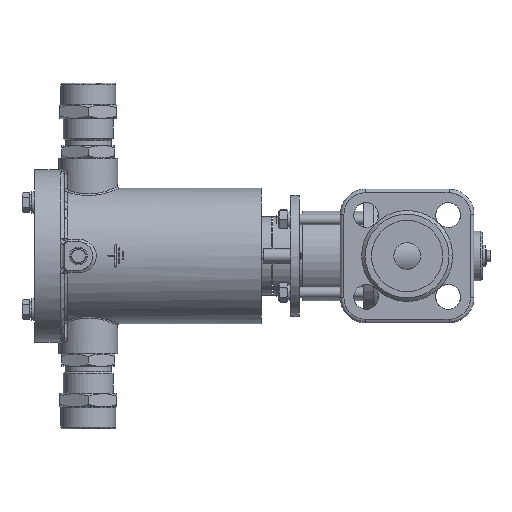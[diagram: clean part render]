
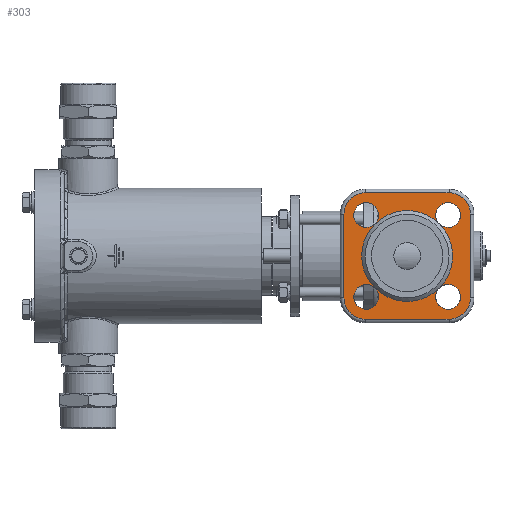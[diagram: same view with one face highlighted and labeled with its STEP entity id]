
A CAD part, left-side view. The second image highlights one B-rep face of the part: STEP entity #303.
In plain terms, the highlighted planar face has unit normal (-1, 0, 0).
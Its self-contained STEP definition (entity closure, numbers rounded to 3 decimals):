
#303=ADVANCED_FACE('',(#6825,#6827,#6829,#6831,#6833,#6835),#6837,.T.);
#6825=FACE_BOUND('',#6826,.T.);
#6826=EDGE_LOOP('',(#22186));
#6827=FACE_BOUND('',#6828,.T.);
#6828=EDGE_LOOP('',(#22187));
#6829=FACE_BOUND('',#6830,.T.);
#6830=EDGE_LOOP('',(#22188));
#6831=FACE_BOUND('',#6832,.T.);
#6832=EDGE_LOOP('',(#22189));
#6833=FACE_BOUND('',#6834,.T.);
#6834=EDGE_LOOP('',(#22190));
#6835=FACE_OUTER_BOUND('',#6836,.T.);
#6836=EDGE_LOOP('',(#22191,#22192,#22193,#22194,#22195,#22196,#22197,#22198));
#6837=PLANE('',#6838);
#6838=AXIS2_PLACEMENT_3D('',#6839,#6840,#6841);
#6839=CARTESIAN_POINT('',(-64.,0.,0.));
#6840=DIRECTION('',(-1.,-0.,-0.));
#6841=DIRECTION('',(0.,1.,0.));
#22186=ORIENTED_EDGE('',*,*,#35082,.T.);
#22187=ORIENTED_EDGE('',*,*,#35084,.T.);
#22188=ORIENTED_EDGE('',*,*,#35078,.T.);
#22189=ORIENTED_EDGE('',*,*,#35135,.T.);
#22190=ORIENTED_EDGE('',*,*,#35080,.T.);
#22191=ORIENTED_EDGE('',*,*,#35136,.T.);
#22192=ORIENTED_EDGE('',*,*,#35137,.T.);
#22193=ORIENTED_EDGE('',*,*,#35138,.T.);
#22194=ORIENTED_EDGE('',*,*,#35139,.T.);
#22195=ORIENTED_EDGE('',*,*,#35140,.T.);
#22196=ORIENTED_EDGE('',*,*,#35141,.T.);
#22197=ORIENTED_EDGE('',*,*,#35142,.T.);
#22198=ORIENTED_EDGE('',*,*,#35143,.T.);
#35078=EDGE_CURVE('',#40150,#40150,#40152,.F.);
#35080=EDGE_CURVE('',#40153,#40153,#40155,.F.);
#35082=EDGE_CURVE('',#40156,#40156,#40158,.F.);
#35084=EDGE_CURVE('',#40159,#40159,#40161,.F.);
#35135=EDGE_CURVE('',#40238,#40238,#40239,.T.);
#35136=EDGE_CURVE('',#40240,#40241,#40242,.T.);
#35137=EDGE_CURVE('',#40241,#40243,#40244,.T.);
#35138=EDGE_CURVE('',#40243,#40245,#40246,.T.);
#35139=EDGE_CURVE('',#40245,#40247,#40248,.T.);
#35140=EDGE_CURVE('',#40247,#40249,#40250,.T.);
#35141=EDGE_CURVE('',#40249,#40251,#40252,.T.);
#35142=EDGE_CURVE('',#40251,#40253,#40254,.T.);
#35143=EDGE_CURVE('',#40253,#40240,#40255,.T.);
#40150=VERTEX_POINT('',#52461);
#40152=CIRCLE('',#52465,7.);
#40153=VERTEX_POINT('',#52469);
#40155=CIRCLE('',#52473,7.);
#40156=VERTEX_POINT('',#52477);
#40158=CIRCLE('',#52481,7.);
#40159=VERTEX_POINT('',#52485);
#40161=CIRCLE('',#52489,7.);
#40238=VERTEX_POINT('',#52695);
#40239=CIRCLE('',#52696,25.5);
#40240=VERTEX_POINT('',#52700);
#40241=VERTEX_POINT('',#52701);
#40242=LINE('',#52702,#52703);
#40243=VERTEX_POINT('',#52705);
#40244=CIRCLE('',#52706,12.);
#40245=VERTEX_POINT('',#52710);
#40246=LINE('',#52711,#52712);
#40247=VERTEX_POINT('',#52714);
#40248=CIRCLE('',#52715,12.);
#40249=VERTEX_POINT('',#52719);
#40250=LINE('',#52720,#52721);
#40251=VERTEX_POINT('',#52723);
#40252=CIRCLE('',#52724,12.);
#40253=VERTEX_POINT('',#52728);
#40254=LINE('',#52729,#52730);
#40255=CIRCLE('',#52732,12.);
#52461=CARTESIAN_POINT('',(-64.,-22.981,-29.981));
#52465=AXIS2_PLACEMENT_3D('',#52466,#52467,#52468);
#52466=CARTESIAN_POINT('',(-64.,-22.981,-22.981));
#52467=DIRECTION('',(-1.,-0.,-0.));
#52468=DIRECTION('',(0.,0.,-1.));
#52469=CARTESIAN_POINT('',(-64.,-22.981,15.981));
#52473=AXIS2_PLACEMENT_3D('',#52474,#52475,#52476);
#52474=CARTESIAN_POINT('',(-64.,-22.981,22.981));
#52475=DIRECTION('',(-1.,-0.,-0.));
#52476=DIRECTION('',(0.,0.,-1.));
#52477=CARTESIAN_POINT('',(-64.,22.981,15.981));
#52481=AXIS2_PLACEMENT_3D('',#52482,#52483,#52484);
#52482=CARTESIAN_POINT('',(-64.,22.981,22.981));
#52483=DIRECTION('',(-1.,-0.,-0.));
#52484=DIRECTION('',(0.,0.,-1.));
#52485=CARTESIAN_POINT('',(-64.,22.981,-29.981));
#52489=AXIS2_PLACEMENT_3D('',#52490,#52491,#52492);
#52490=CARTESIAN_POINT('',(-64.,22.981,-22.981));
#52491=DIRECTION('',(-1.,-0.,-0.));
#52492=DIRECTION('',(0.,0.,-1.));
#52695=CARTESIAN_POINT('',(-64.,25.5,0.));
#52696=AXIS2_PLACEMENT_3D('',#52697,#52698,#52699);
#52697=CARTESIAN_POINT('',(-64.,0.,0.));
#52698=DIRECTION('',(1.,0.,0.));
#52699=DIRECTION('',(0.,1.,0.));
#52700=CARTESIAN_POINT('',(-64.,23.5,-35.5));
#52701=CARTESIAN_POINT('',(-64.,-23.5,-35.5));
#52702=CARTESIAN_POINT('',(-64.,23.5,-35.5));
#52703=VECTOR('',#52704,1.);
#52704=DIRECTION('',(0.,-1.,0.));
#52705=CARTESIAN_POINT('',(-64.,-35.5,-23.5));
#52706=AXIS2_PLACEMENT_3D('',#52707,#52708,#52709);
#52707=CARTESIAN_POINT('',(-64.,-23.5,-23.5));
#52708=DIRECTION('',(-1.,0.,-0.));
#52709=DIRECTION('',(0.,0.,-1.));
#52710=CARTESIAN_POINT('',(-64.,-35.5,23.5));
#52711=CARTESIAN_POINT('',(-64.,-35.5,-23.5));
#52712=VECTOR('',#52713,1.);
#52713=DIRECTION('',(0.,0.,1.));
#52714=CARTESIAN_POINT('',(-64.,-23.5,35.5));
#52715=AXIS2_PLACEMENT_3D('',#52716,#52717,#52718);
#52716=CARTESIAN_POINT('',(-64.,-23.5,23.5));
#52717=DIRECTION('',(-1.,-0.,0.));
#52718=DIRECTION('',(0.,-1.,0.));
#52719=CARTESIAN_POINT('',(-64.,23.5,35.5));
#52720=CARTESIAN_POINT('',(-64.,-23.5,35.5));
#52721=VECTOR('',#52722,1.);
#52722=DIRECTION('',(0.,1.,0.));
#52723=CARTESIAN_POINT('',(-64.,35.5,23.5));
#52724=AXIS2_PLACEMENT_3D('',#52725,#52726,#52727);
#52725=CARTESIAN_POINT('',(-64.,23.5,23.5));
#52726=DIRECTION('',(-1.,0.,0.));
#52727=DIRECTION('',(0.,0.,1.));
#52728=CARTESIAN_POINT('',(-64.,35.5,-23.5));
#52729=CARTESIAN_POINT('',(-64.,35.5,23.5));
#52730=VECTOR('',#52731,1.);
#52731=DIRECTION('',(0.,0.,-1.));
#52732=AXIS2_PLACEMENT_3D('',#52733,#52734,#52735);
#52733=CARTESIAN_POINT('',(-64.,23.5,-23.5));
#52734=DIRECTION('',(-1.,0.,0.));
#52735=DIRECTION('',(0.,1.,0.));
